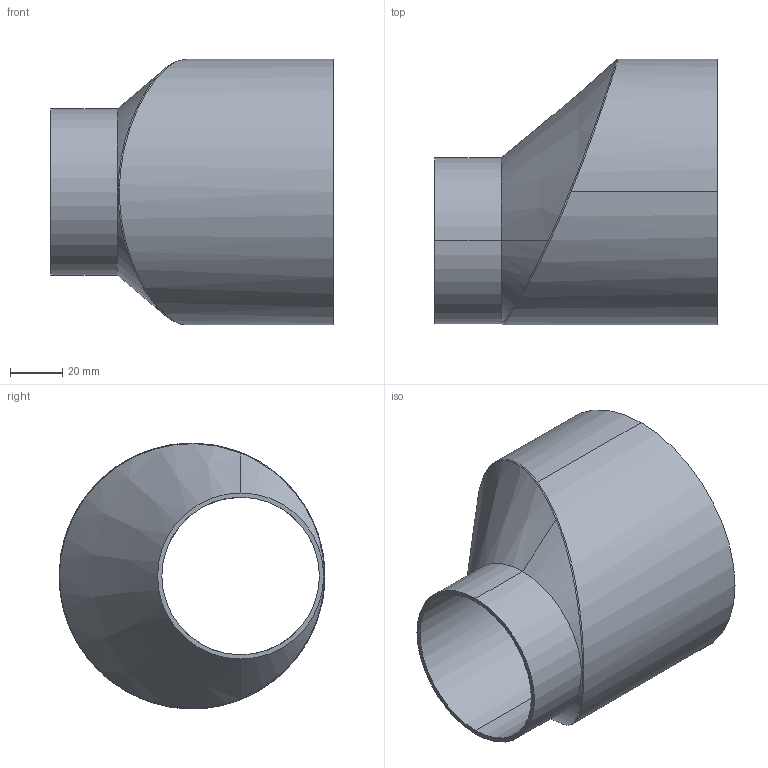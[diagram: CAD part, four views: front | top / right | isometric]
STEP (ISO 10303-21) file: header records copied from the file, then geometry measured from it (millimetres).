
FILE_DESCRIPTION (( 'STEP AP214' ), '1' );
FILE_NAME ('TE32SWW6L4.0x2.5-...STEP', '2016-06-01T08:31:02', ( 'eran' ), ( '' ), 'SwSTEP 2.0', 'SolidWorks 2016', '' );
FILE_SCHEMA (( 'AUTOMOTIVE_DESIGN' ));
Length unit declared in the file: millimetre
Products named in the file (1): TE32SWW6L4.0x2.5-..
Bounding box: 107.95 x 101.6 x 101.6 mm (x, y, z)
Volume: 210682.8 mm3; surface area: 57786.8 mm2
Topology: 1 solids, 1 shells, 20 faces, 48 edges, 28 vertices
Faces by surface type: cylinder 8, bspline 4, cone 4, torus 2, plane 2
Entity records: 1472 total; most frequent: CARTESIAN_POINT 1012, ORIENTED_EDGE 92, DIRECTION 83, EDGE_CURVE 46, AXIS2_PLACEMENT_3D 36, VERTEX_POINT 28, EDGE_LOOP 22, ADVANCED_FACE 20
